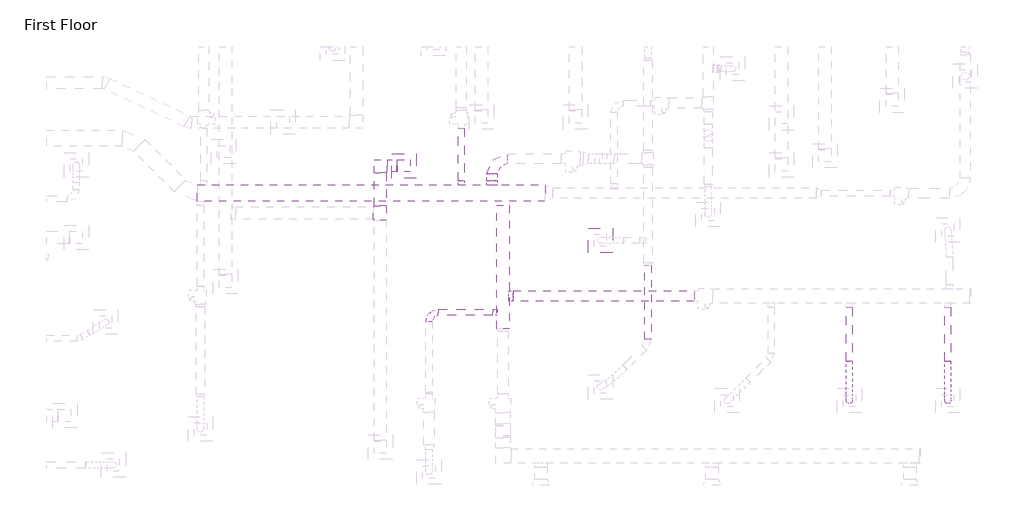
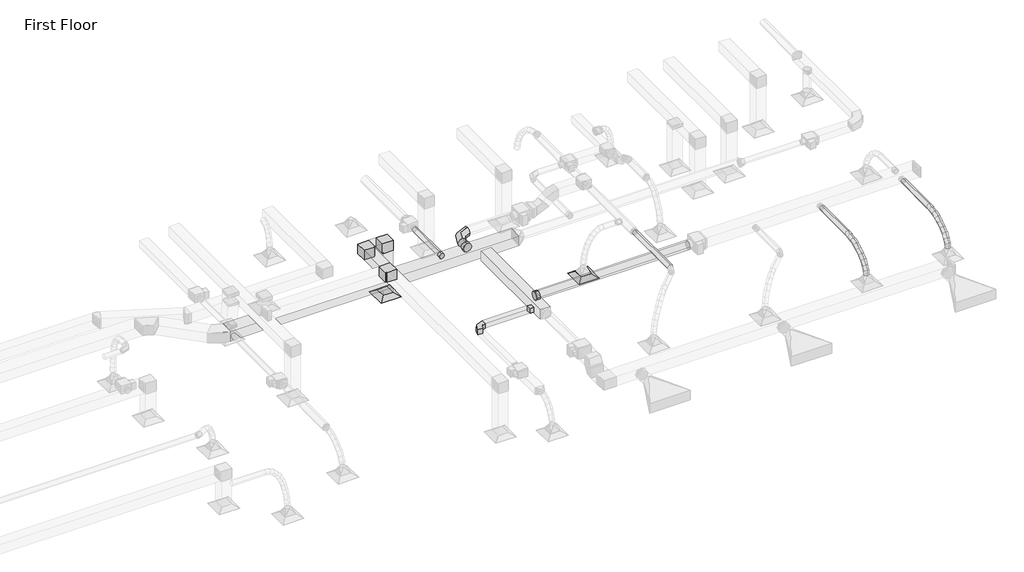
# One storey, part 54 of 61: 14 duct segments, 9 duct fittings, 2 air terminals.
"""IFC4 building model written with IfcOpenShell, lengths in millimetres."""

from ifc_helpers import new_model, si_unit, point, frame, frame_2d, origin, place, context, project, spatial, polyline, circle_curve, ellipse_curve, trimmed, segment, composite_curve, outline, extrude, transform, mapped, element, save
from ifc_brep_helpers import plane_surface, cylinder_surface, advanced_brep
from components import m_exhaust_grill_er_600_x_600_face_300_x_300_connection_ff221211, m_rectangular_elbow_mitered_standard_8eee5933, m_rectangular_elbow_radius_1_5_w_34375731, m_rectangular_takeoff_standard_f8aabef9, m_rectangular_tee_standard_bf2a2b7f, m_round_elbow_1_5_d_4a9a621c, m_round_takeoff_standard_e5a0bf09, m_round_takeoff_standard_8bf94ee8, m_round_takeoff_standard_ce92a222

model = new_model("IFC4")

# Units and contexts
model_context = context("Model", 3, world=origin())
ifc_project = project(units=[si_unit("LENGTHUNIT", "METRE", prefix="MILLI")], contexts=[model_context])

# Site, building, storey
site = spatial("IfcSite", under=ifc_project)
building = spatial("IfcBuilding", under=site)
storey = spatial("IfcBuildingStorey", under=building, Name="First Floor", Elevation=0.0)

# Air terminals
placement = place(None, origin())
m_exhaust_grill_er_600_x_600_face_300_x_300_connection_shape = m_exhaust_grill_er_600_x_600_face_300_x_300_connection_ff221211(model_context)
element("IfcAirTerminal", 1, ObjectType="M_Return Register : RR-600 x 600 Face 300 x 300 Connection", at=placement, inside=storey, context=model_context, shape_type="MappedRepresentation", body=[
    mapped(m_exhaust_grill_er_600_x_600_face_300_x_300_connection_shape, transform((-14253.6262032, 43623.6954017, 2680.0), x_axis=(1.0, 0.0, 0.0), y_axis=(0.0, 1.0, 0.0), z_axis=(0.0, 0.0, 1.0))),
])
element("IfcAirTerminal", 2, ObjectType="M_Supply Diffuser : SD-600 x 600 Face 300 x 300 Connection", at=placement, inside=storey, context=model_context, shape_type="MappedRepresentation", body=[
    mapped(m_exhaust_grill_er_600_x_600_face_300_x_300_connection_shape, transform((-9443.8265855, 41799.3842664, 2680.0), x_axis=(1.0, 0.0, 0.0), y_axis=(0.0, 1.0, 0.0), z_axis=(0.0, 0.0, 1.0))),
])

# Duct fittings
m_rectangular_elbow_mitered_standard_shape = m_rectangular_elbow_mitered_standard_8eee5933(model_context)
element("IfcDuctFitting", 3, ObjectType="M_Rectangular Elbow - Mitered : Standard", at=placement, inside=storey, context=model_context, shape_type="MappedRepresentation", body=[
    mapped(m_rectangular_elbow_mitered_standard_shape, transform((-14253.6262032, 43623.6954017, 4259.5), x_axis=(0.0, 0.0, 1.0), y_axis=(-1.0, 0.0, 0.0), z_axis=(0.0, -1.0, 0.0))),
])
element("IfcDuctFitting", 4, ObjectType="M_Rectangular Elbow - Mitered : Standard", at=placement, inside=storey, context=model_context, shape_type="MappedRepresentation", body=[
    mapped(m_rectangular_elbow_mitered_standard_shape, transform((-14834.8231147, 43623.6954017, 4259.5), x_axis=(-1.0, 0.0, 0.0), y_axis=(0.0, -1.0, 0.0), z_axis=(0.0, 0.0, 1.0))),
])
m_rectangular_elbow_radius_1_5_w_shape = m_rectangular_elbow_radius_1_5_w_34375731(model_context)
element("IfcDuctFitting", 5, ObjectType="M_Rectangular Elbow - Radius : 1.5 W", at=placement, inside=storey, context=model_context, shape_type="MappedRepresentation", body=[
    mapped(m_rectangular_elbow_radius_1_5_w_shape, transform((-13642.7415591, 40033.7748195, 3609.6), x_axis=(-1.0, 0.0, 0.0), y_axis=(0.0, -0.9999999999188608, -1.2738853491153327e-05), z_axis=(0.0, -1.2738853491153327e-05, 0.9999999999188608))),
])
m_rectangular_takeoff_standard_shape = m_rectangular_takeoff_standard_f8aabef9(model_context)
element("IfcDuctFitting", 6, ObjectType="M_Rectangular Takeoff : Standard", at=placement, inside=storey, context=model_context, shape_type="MappedRepresentation", body=[
    mapped(m_rectangular_takeoff_standard_shape, transform((-11977.7462336, 40033.7748195, 3609.6), x_axis=(-1.0, 0.0, 0.0), y_axis=(0.0, 1.0, 0.0), z_axis=(0.0, 0.0, -1.0))),
])
m_rectangular_tee_standard_shape = m_rectangular_tee_standard_bf2a2b7f(model_context)
element("IfcDuctFitting", 7, ObjectType="M_Rectangular Tee : Standard", at=placement, inside=storey, context=model_context, shape_type="MappedRepresentation", body=[
    mapped(m_rectangular_tee_standard_shape, transform((-14834.8231147, 42467.9736837, 4259.5), x_axis=(0.0, -1.0, 0.0), y_axis=(1.0, 0.0, 0.0), z_axis=(0.0, 0.0, 1.0))),
])
m_round_elbow_1_5_d_shape = m_round_elbow_1_5_d_4a9a621c(model_context)
element("IfcDuctFitting", 8, ObjectType="M_Round Elbow : 1.5 D", at=placement, inside=storey, context=model_context, shape_type="MappedRepresentation", body=[
    mapped(m_round_elbow_1_5_d_shape, transform((-12096.2549766, 43800.106062, 3659.6), x_axis=(-1.0, 0.0, 0.0), y_axis=(0.0, -1.0, 0.0), z_axis=(0.0, 0.0, 1.0))),
])
m_round_takeoff_standard_shape = m_round_takeoff_standard_e5a0bf09(model_context)
element("IfcDuctFitting", 9, ObjectType="M_Round Takeoff : Standard", at=placement, inside=storey, context=model_context, shape_type="MappedRepresentation", body=[
    mapped(m_round_takeoff_standard_shape, transform((-11677.7462336, 40433.1004796, 3659.5991991), x_axis=(0.9999999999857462, 0.0, -5.339257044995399e-06), y_axis=(0.0, -1.0, 0.0), z_axis=(-5.339257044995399e-06, 0.0, -0.9999999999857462))),
])
m_round_takeoff_standard_2_shape = m_round_takeoff_standard_8bf94ee8(model_context)
element("IfcDuctFitting", 10, ObjectType="M_Round Takeoff : Standard", at=placement, inside=storey, context=model_context, shape_type="MappedRepresentation", body=[
    mapped(m_round_takeoff_standard_2_shape, transform((-12851.5599417, 43156.1720978, 3659.6031417), x_axis=(0.0, 0.9999999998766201, 1.570858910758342e-05), y_axis=(1.0, 0.0, 0.0), z_axis=(0.0, 1.5708589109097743e-05, -0.9999999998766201))),
])
m_round_takeoff_standard_3_shape = m_round_takeoff_standard_ce92a222(model_context)
element("IfcDuctFitting", 11, ObjectType="M_Round Takeoff : Standard", at=placement, inside=storey, context=model_context, shape_type="MappedRepresentation", body=[
    mapped(m_round_takeoff_standard_3_shape, transform((-12096.2549766, 43156.1720978, 3659.6), x_axis=(0.0, 1.0, 0.0), y_axis=(1.0, 0.0, 0.0), z_axis=(0.0, 0.0, -1.0))),
])

# Duct segments
element("IfcDuctSegment", 12, ObjectType="Flex - Round", at=placement, inside=storey, context=model_context, shape_type="AdvancedBrep", body=[
    advanced_brep(
    [(-3264.4452396, 38832.2504796, 3669.1), (-3339.4452396, 38838.2751836, 3594.342372), (-3414.4452396, 38832.2504796, 3669.1), (-3339.4452396, 38826.2257756, 3743.857628), (-3264.4452396, 38694.3241422, 3657.9845409), (-3339.4452396, 38705.5469799, 3583.6458296), (-3414.4452396, 38694.3241422, 3657.9845409), (-3339.4452396, 38683.1013046, 3732.3232522), (-3264.4452396, 37868.7760483, 2962.6660172), (-3339.4452396, 37794.6539595, 2974.1078685), (-3414.4452396, 37868.7760483, 2962.6660172), (-3339.4452396, 37942.898137, 2951.2241658), (-3264.4452396, 38550.05401, 3625.8351896), (-3339.4452396, 38570.8463398, 3553.6289569), (-3414.4452396, 38550.05401, 3625.8351896), (-3339.4452396, 38529.2616801, 3698.0414223), (-3264.4452396, 38405.4667401, 3574.4474849), (-3339.4452396, 38434.780734, 3505.2699334), (-3414.4452396, 38405.4667401, 3574.4474849), (-3339.4452396, 38376.1527463, 3643.6250364), (-3264.4452396, 38266.5889902, 3505.6169659), (-3339.4452396, 38304.1443278, 3440.523985), (-3414.4452396, 38266.5889902, 3505.6169659), (-3339.4452396, 38229.0336526, 3570.7099468), (-3264.4452396, 38139.4474175, 3421.1391714), (-3339.4452396, 38185.5153362, 3361.7022797), (-3414.4452396, 38139.4474175, 3421.1391714), (-3339.4452396, 38093.3794989, 3480.5760631), (-3264.4452396, 38030.0686796, 3322.8096404), (-3339.4452396, 38085.2150809, 3271.5341423), (-3414.4452396, 38030.0686796, 3322.8096404), (-3339.4452396, 37974.9222783, 3374.0851385), (-3264.4452396, 37944.4794338, 3212.4239117), (-3339.4452396, 38008.9773482, 3173.2091997), (-3414.4452396, 37944.4794338, 3212.4239117), (-3339.4452396, 37879.9815194, 3251.6386237), (-3264.4452396, 37888.7063375, 3091.7775243), (-3339.4452396, 37961.2167919, 3069.8952551), (-3414.4452396, 37888.7063375, 3091.7775243), (-3339.4452396, 37816.1958832, 3113.6597935)],
    [
        (0, 1, circle_curve(frame((-3339.4452396, 38832.2504796, 3669.1), z_axis=(0.0, 0.9967683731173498, 0.08032938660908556), x_axis=(1.0, 0.0, 0.0)), 75.0)),
        (1, 2, circle_curve(frame((-3339.4452396, 38832.2504796, 3669.1), z_axis=(0.0, 0.9967683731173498, 0.08032938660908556), x_axis=(1.0, 0.0, 0.0)), 75.0)),
        (2, 3, circle_curve(frame((-3339.4452396, 38832.2504796, 3669.1), z_axis=(0.0, 0.9967683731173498, 0.08032938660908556), x_axis=(1.0, 0.0, 0.0)), 75.0)),
        (3, 0, circle_curve(frame((-3339.4452396, 38832.2504796, 3669.1), z_axis=(0.0, 0.9967683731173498, 0.08032938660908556), x_axis=(1.0, 0.0, 0.0)), 75.0)),
        (0, 4),
        (4, 5, ellipse_curve(frame((-3339.4452396, 38694.3241422, 3657.9845409), z_axis=(0.0, 0.9887953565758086, 0.14927740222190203), x_axis=(0.0, 0.14927740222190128, -0.9887953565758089)), 75.1810886, 75.0)),
        (5, 1),
        (5, 6, ellipse_curve(frame((-3339.4452396, 38694.3241422, 3657.9845409), z_axis=(0.0, 0.9887953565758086, 0.14927740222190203), x_axis=(0.0, 0.14927740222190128, -0.9887953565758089)), 75.1810886, 75.0)),
        (6, 2),
        (6, 7, ellipse_curve(frame((-3339.4452396, 38694.3241422, 3657.9845409), z_axis=(0.0, 0.9887953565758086, 0.14927740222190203), x_axis=(0.0, 0.14927740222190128, -0.9887953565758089)), 75.1810886, 75.0)),
        (7, 3),
        (7, 4, ellipse_curve(frame((-3339.4452396, 38694.3241422, 3657.9845409), z_axis=(0.0, 0.9887953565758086, 0.14927740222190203), x_axis=(0.0, 0.14927740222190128, -0.9887953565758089)), 75.1810886, 75.0)),
        (8, 9, circle_curve(frame((-3339.4452396, 37868.7760483, 2962.6660172), z_axis=(0.0, -0.15255801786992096, -0.9882945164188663), x_axis=(1.0, 0.0, 0.0)), 75.0)),
        (9, 10, circle_curve(frame((-3339.4452396, 37868.7760483, 2962.6660172), z_axis=(0.0, -0.15255801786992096, -0.9882945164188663), x_axis=(1.0, 0.0, 0.0)), 75.0)),
        (10, 11, circle_curve(frame((-3339.4452396, 37868.7760483, 2962.6660172), z_axis=(0.0, -0.15255801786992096, -0.9882945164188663), x_axis=(1.0, 0.0, 0.0)), 75.0)),
        (11, 8, circle_curve(frame((-3339.4452396, 37868.7760483, 2962.6660172), z_axis=(0.0, -0.15255801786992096, -0.9882945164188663), x_axis=(1.0, 0.0, 0.0)), 75.0)),
        (4, 12),
        (12, 13, ellipse_curve(frame((-3339.4452396, 38550.05401, 3625.8351896), z_axis=(0.0, 0.9609524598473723, 0.27671351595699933), x_axis=(0.0, 0.27671351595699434, -0.9609524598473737)), 75.1402757, 75.0)),
        (13, 5),
        (13, 14, ellipse_curve(frame((-3339.4452396, 38550.05401, 3625.8351896), z_axis=(0.0, 0.9609524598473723, 0.27671351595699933), x_axis=(0.0, 0.27671351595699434, -0.9609524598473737)), 75.1402757, 75.0)),
        (14, 6),
        (14, 15, ellipse_curve(frame((-3339.4452396, 38550.05401, 3625.8351896), z_axis=(0.0, 0.9609524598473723, 0.27671351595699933), x_axis=(0.0, 0.27671351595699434, -0.9609524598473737)), 75.1402757, 75.0)),
        (15, 7),
        (15, 12, ellipse_curve(frame((-3339.4452396, 38550.05401, 3625.8351896), z_axis=(0.0, 0.9609524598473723, 0.27671351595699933), x_axis=(0.0, 0.27671351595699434, -0.9609524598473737)), 75.1402757, 75.0)),
        (12, 16),
        (16, 17, ellipse_curve(frame((-3339.4452396, 38405.4667401, 3574.4474849), z_axis=(0.0, 0.9207446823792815, 0.39016564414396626), x_axis=(0.0, 0.39016564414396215, -0.9207446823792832)), 75.132176, 75.0)),
        (17, 13),
        (17, 18, ellipse_curve(frame((-3339.4452396, 38405.4667401, 3574.4474849), z_axis=(0.0, 0.9207446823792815, 0.39016564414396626), x_axis=(0.0, 0.39016564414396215, -0.9207446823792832)), 75.132176, 75.0)),
        (18, 14),
        (18, 19, ellipse_curve(frame((-3339.4452396, 38405.4667401, 3574.4474849), z_axis=(0.0, 0.9207446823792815, 0.39016564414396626), x_axis=(0.0, 0.39016564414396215, -0.9207446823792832)), 75.132176, 75.0)),
        (19, 15),
        (19, 16, ellipse_curve(frame((-3339.4452396, 38405.4667401, 3574.4474849), z_axis=(0.0, 0.9207446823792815, 0.39016564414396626), x_axis=(0.0, 0.39016564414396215, -0.9207446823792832)), 75.132176, 75.0)),
        (16, 20),
        (20, 21, ellipse_curve(frame((-3339.4452396, 38266.5889902, 3505.6169659), z_axis=(0.0, 0.8661758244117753, 0.4997393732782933), x_axis=(0.0, 0.4997393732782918, -0.8661758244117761)), 75.1498473, 75.0)),
        (21, 17),
        (21, 22, ellipse_curve(frame((-3339.4452396, 38266.5889902, 3505.6169659), z_axis=(0.0, 0.8661758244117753, 0.4997393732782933), x_axis=(0.0, 0.4997393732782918, -0.8661758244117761)), 75.1498473, 75.0)),
        (22, 18),
        (22, 23, ellipse_curve(frame((-3339.4452396, 38266.5889902, 3505.6169659), z_axis=(0.0, 0.8661758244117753, 0.4997393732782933), x_axis=(0.0, 0.4997393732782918, -0.8661758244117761)), 75.1498473, 75.0)),
        (23, 19),
        (23, 20, ellipse_curve(frame((-3339.4452396, 38266.5889902, 3505.6169659), z_axis=(0.0, 0.8661758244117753, 0.4997393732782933), x_axis=(0.0, 0.4997393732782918, -0.8661758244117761)), 75.1498473, 75.0)),
        (20, 24),
        (24, 25, ellipse_curve(frame((-3339.4452396, 38139.4474175, 3421.1391714), z_axis=(0.0, 0.7903871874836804, 0.612607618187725), x_axis=(0.0, 0.6126076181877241, -0.7903871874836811)), 75.1997156, 75.0)),
        (25, 21),
        (25, 26, ellipse_curve(frame((-3339.4452396, 38139.4474175, 3421.1391714), z_axis=(0.0, 0.7903871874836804, 0.612607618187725), x_axis=(0.0, 0.6126076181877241, -0.7903871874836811)), 75.1997156, 75.0)),
        (26, 22),
        (26, 27, ellipse_curve(frame((-3339.4452396, 38139.4474175, 3421.1391714), z_axis=(0.0, 0.7903871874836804, 0.612607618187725), x_axis=(0.0, 0.6126076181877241, -0.7903871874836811)), 75.1997156, 75.0)),
        (27, 23),
        (27, 24, ellipse_curve(frame((-3339.4452396, 38139.4474175, 3421.1391714), z_axis=(0.0, 0.7903871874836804, 0.612607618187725), x_axis=(0.0, 0.6126076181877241, -0.7903871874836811)), 75.1997156, 75.0)),
        (24, 28),
        (28, 29, ellipse_curve(frame((-3339.4452396, 38030.0686796, 3322.8096404), z_axis=(0.0, 0.6809367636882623, 0.7323422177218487), x_axis=(0.0, 0.7323422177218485, -0.6809367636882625)), 75.3014095, 75.0)),
        (29, 25),
        (29, 30, ellipse_curve(frame((-3339.4452396, 38030.0686796, 3322.8096404), z_axis=(0.0, 0.6809367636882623, 0.7323422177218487), x_axis=(0.0, 0.7323422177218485, -0.6809367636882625)), 75.3014095, 75.0)),
        (30, 26),
        (30, 31, ellipse_curve(frame((-3339.4452396, 38030.0686796, 3322.8096404), z_axis=(0.0, 0.6809367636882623, 0.7323422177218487), x_axis=(0.0, 0.7323422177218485, -0.6809367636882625)), 75.3014095, 75.0)),
        (31, 27),
        (31, 28, ellipse_curve(frame((-3339.4452396, 38030.0686796, 3322.8096404), z_axis=(0.0, 0.6809367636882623, 0.7323422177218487), x_axis=(0.0, 0.7323422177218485, -0.6809367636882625)), 75.3014095, 75.0)),
        (28, 32),
        (32, 33, ellipse_curve(frame((-3339.4452396, 37944.4794338, 3212.4239117), z_axis=(0.0, 0.5195129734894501, 0.8544625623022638), x_axis=(0.0, 0.8544625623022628, -0.5195129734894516)), 75.4836048, 75.0)),
        (33, 29),
        (33, 34, ellipse_curve(frame((-3339.4452396, 37944.4794338, 3212.4239117), z_axis=(0.0, 0.5195129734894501, 0.8544625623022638), x_axis=(0.0, 0.8544625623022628, -0.5195129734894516)), 75.4836048, 75.0)),
        (34, 30),
        (34, 35, ellipse_curve(frame((-3339.4452396, 37944.4794338, 3212.4239117), z_axis=(0.0, 0.5195129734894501, 0.8544625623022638), x_axis=(0.0, 0.8544625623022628, -0.5195129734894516)), 75.4836048, 75.0)),
        (35, 31),
        (35, 32, ellipse_curve(frame((-3339.4452396, 37944.4794338, 3212.4239117), z_axis=(0.0, 0.5195129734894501, 0.8544625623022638), x_axis=(0.0, 0.8544625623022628, -0.5195129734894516)), 75.4836048, 75.0)),
        (32, 36),
        (36, 37, ellipse_curve(frame((-3339.4452396, 37888.7063375, 3091.7775243), z_axis=(0.0, 0.28891166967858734, 0.9573557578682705), x_axis=(0.0, 0.9573557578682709, -0.28891166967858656)), 75.7403439, 75.0)),
        (37, 33),
        (37, 38, ellipse_curve(frame((-3339.4452396, 37888.7063375, 3091.7775243), z_axis=(0.0, 0.28891166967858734, 0.9573557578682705), x_axis=(0.0, 0.9573557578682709, -0.28891166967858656)), 75.7403439, 75.0)),
        (38, 34),
        (38, 39, ellipse_curve(frame((-3339.4452396, 37888.7063375, 3091.7775243), z_axis=(0.0, 0.28891166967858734, 0.9573557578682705), x_axis=(0.0, 0.9573557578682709, -0.28891166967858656)), 75.7403439, 75.0)),
        (39, 35),
        (39, 36, ellipse_curve(frame((-3339.4452396, 37888.7063375, 3091.7775243), z_axis=(0.0, 0.28891166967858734, 0.9573557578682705), x_axis=(0.0, 0.9573557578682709, -0.28891166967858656)), 75.7403439, 75.0)),
        (36, 8),
        (11, 37),
        (10, 38),
        (9, 39),
    ],
    [
        plane_surface(frame((-3339.4452396, 38838.2751836, 3594.342372), z_axis=(0.0, 0.9967683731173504, 0.08032938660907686), x_axis=(1.0, 0.0, 0.0))),
        cylinder_surface(frame((-3339.4452396, 38832.2504796, 3669.1), z_axis=(0.0, 0.9967683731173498, 0.08032938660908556), x_axis=(1.0, 0.0, 0.0)), 75.0),
        plane_surface(frame((-3339.4452396, 37942.898137, 2951.2241658), z_axis=(0.0, -0.1525580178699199, -0.9882945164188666), x_axis=(1.0, 0.0, 0.0))),
        cylinder_surface(frame((-3339.4452396, 38694.3241422, 3657.9845409), z_axis=(0.0, 0.9760589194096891, 0.2175062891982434), x_axis=(1.0, 0.0, 0.0)), 75.0),
        cylinder_surface(frame((-3339.4452396, 38550.05401, 3625.8351896), z_axis=(0.0, 0.9422580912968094, 0.3348875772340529), x_axis=(1.0, 0.0, 0.0)), 75.0),
        cylinder_surface(frame((-3339.4452396, 38405.4667401, 3574.4474849), z_axis=(0.0, 0.8959916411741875, 0.44407091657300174), x_axis=(1.0, 0.0, 0.0)), 75.0),
        cylinder_surface(frame((-3339.4452396, 38266.5889902, 3505.6169659), z_axis=(0.0, 0.8329057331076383, 0.5534148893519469), x_axis=(1.0, 0.0, 0.0)), 75.0),
        cylinder_surface(frame((-3339.4452396, 38139.4474175, 3421.1391714), z_axis=(0.0, 0.7436704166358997, 0.6685464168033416), x_axis=(1.0, 0.0, 0.0)), 75.0),
        cylinder_surface(frame((-3339.4452396, 38030.0686796, 3322.8096404), z_axis=(0.0, 0.6127519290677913, 0.7902753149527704), x_axis=(1.0, 0.0, 0.0)), 75.0),
        cylinder_surface(frame((-3339.4452396, 37944.4794338, 3212.4239117), z_axis=(0.0, 0.41961723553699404, 0.9077011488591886), x_axis=(1.0, 0.0, 0.0)), 75.0),
        cylinder_surface(frame((-3339.4452396, 37888.7063375, 3091.7775243), z_axis=(0.0, 0.15255801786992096, 0.9882945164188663), x_axis=(1.0, 0.0, 0.0)), 75.0),
    ],
    [
        (0, [[1, 2, 3, 4]]),
        (1, [[-1, 5, 6, 7]]),
        (1, [[-2, -7, 8, 9]]),
        (1, [[-3, -9, 10, 11]]),
        (1, [[-4, -11, 12, -5]]),
        (2, [[13, 14, 15, 16]]),
        (3, [[-6, 17, 18, 19]]),
        (3, [[-8, -19, 20, 21]]),
        (3, [[-10, -21, 22, 23]]),
        (3, [[-12, -23, 24, -17]]),
        (4, [[-18, 25, 26, 27]]),
        (4, [[-20, -27, 28, 29]]),
        (4, [[-22, -29, 30, 31]]),
        (4, [[-24, -31, 32, -25]]),
        (5, [[-26, 33, 34, 35]]),
        (5, [[-28, -35, 36, 37]]),
        (5, [[-30, -37, 38, 39]]),
        (5, [[-32, -39, 40, -33]]),
        (6, [[-34, 41, 42, 43]]),
        (6, [[-36, -43, 44, 45]]),
        (6, [[-38, -45, 46, 47]]),
        (6, [[-40, -47, 48, -41]]),
        (7, [[-42, 49, 50, 51]]),
        (7, [[-44, -51, 52, 53]]),
        (7, [[-46, -53, 54, 55]]),
        (7, [[-48, -55, 56, -49]]),
        (8, [[-50, 57, 58, 59]]),
        (8, [[-52, -59, 60, 61]]),
        (8, [[-54, -61, 62, 63]]),
        (8, [[-56, -63, 64, -57]]),
        (9, [[-58, 65, 66, 67]]),
        (9, [[-60, -67, 68, 69]]),
        (9, [[-62, -69, 70, 71]]),
        (9, [[-64, -71, 72, -65]]),
        (10, [[-66, 73, -16, 74]]),
        (10, [[-68, -74, -15, 75]]),
        (10, [[-70, -75, -14, 76]]),
        (10, [[-72, -76, -13, -73]]),
    ],
),
])
element("IfcDuctSegment", 13, ObjectType="Flex - Round", at=placement, inside=storey, context=model_context, shape_type="AdvancedBrep", body=[
    advanced_brep(
    [(-853.6121284, 38832.2504796, 3669.1), (-928.6121284, 38838.2751836, 3594.342372), (-1003.6121284, 38832.2504796, 3669.1), (-928.6121284, 38826.2257756, 3743.857628), (-853.6121284, 38694.3241422, 3657.9845409), (-928.6121284, 38705.5469799, 3583.6458296), (-1003.6121284, 38694.3241422, 3657.9845409), (-928.6121284, 38683.1013046, 3732.3232522), (-853.6121284, 37868.7760483, 2962.6660172), (-928.6121284, 37794.6539595, 2974.1078685), (-1003.6121284, 37868.7760483, 2962.6660172), (-928.6121284, 37942.898137, 2951.2241658), (-853.6121284, 38550.05401, 3625.8351896), (-928.6121284, 38570.8463398, 3553.6289569), (-1003.6121284, 38550.05401, 3625.8351896), (-928.6121284, 38529.2616801, 3698.0414223), (-853.6121284, 38405.4667401, 3574.4474849), (-928.6121284, 38434.780734, 3505.2699334), (-1003.6121284, 38405.4667401, 3574.4474849), (-928.6121284, 38376.1527463, 3643.6250364), (-853.6121284, 38266.5889902, 3505.6169659), (-928.6121284, 38304.1443278, 3440.523985), (-1003.6121284, 38266.5889902, 3505.6169659), (-928.6121284, 38229.0336526, 3570.7099468), (-853.6121284, 38139.4474175, 3421.1391714), (-928.6121284, 38185.5153362, 3361.7022797), (-1003.6121284, 38139.4474175, 3421.1391714), (-928.6121284, 38093.3794989, 3480.5760631), (-853.6121284, 38030.0686796, 3322.8096404), (-928.6121284, 38085.2150809, 3271.5341423), (-1003.6121284, 38030.0686796, 3322.8096404), (-928.6121284, 37974.9222783, 3374.0851385), (-853.6121284, 37944.4794338, 3212.4239117), (-928.6121284, 38008.9773482, 3173.2091997), (-1003.6121284, 37944.4794338, 3212.4239117), (-928.6121284, 37879.9815194, 3251.6386237), (-853.6121284, 37888.7063375, 3091.7775243), (-928.6121284, 37961.2167919, 3069.8952551), (-1003.6121284, 37888.7063375, 3091.7775243), (-928.6121284, 37816.1958832, 3113.6597935)],
    [
        (0, 1, circle_curve(frame((-928.6121284, 38832.2504796, 3669.1), z_axis=(0.0, 0.9967683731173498, 0.08032938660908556), x_axis=(1.0, 0.0, 0.0)), 75.0)),
        (1, 2, circle_curve(frame((-928.6121284, 38832.2504796, 3669.1), z_axis=(0.0, 0.9967683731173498, 0.08032938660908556), x_axis=(1.0, 0.0, 0.0)), 75.0)),
        (2, 3, circle_curve(frame((-928.6121284, 38832.2504796, 3669.1), z_axis=(0.0, 0.9967683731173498, 0.08032938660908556), x_axis=(1.0, 0.0, 0.0)), 75.0)),
        (3, 0, circle_curve(frame((-928.6121284, 38832.2504796, 3669.1), z_axis=(0.0, 0.9967683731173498, 0.08032938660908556), x_axis=(1.0, 0.0, 0.0)), 75.0)),
        (0, 4),
        (4, 5, ellipse_curve(frame((-928.6121284, 38694.3241422, 3657.9845409), z_axis=(0.0, 0.9887953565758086, 0.14927740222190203), x_axis=(0.0, 0.14927740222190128, -0.9887953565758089)), 75.1810886, 75.0)),
        (5, 1),
        (5, 6, ellipse_curve(frame((-928.6121284, 38694.3241422, 3657.9845409), z_axis=(0.0, 0.9887953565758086, 0.14927740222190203), x_axis=(0.0, 0.14927740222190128, -0.9887953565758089)), 75.1810886, 75.0)),
        (6, 2),
        (6, 7, ellipse_curve(frame((-928.6121284, 38694.3241422, 3657.9845409), z_axis=(0.0, 0.9887953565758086, 0.14927740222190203), x_axis=(0.0, 0.14927740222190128, -0.9887953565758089)), 75.1810886, 75.0)),
        (7, 3),
        (7, 4, ellipse_curve(frame((-928.6121284, 38694.3241422, 3657.9845409), z_axis=(0.0, 0.9887953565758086, 0.14927740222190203), x_axis=(0.0, 0.14927740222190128, -0.9887953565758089)), 75.1810886, 75.0)),
        (8, 9, circle_curve(frame((-928.6121284, 37868.7760483, 2962.6660172), z_axis=(0.0, -0.15255801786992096, -0.9882945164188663), x_axis=(1.0, 0.0, 0.0)), 75.0)),
        (9, 10, circle_curve(frame((-928.6121284, 37868.7760483, 2962.6660172), z_axis=(0.0, -0.15255801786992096, -0.9882945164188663), x_axis=(1.0, 0.0, 0.0)), 75.0)),
        (10, 11, circle_curve(frame((-928.6121284, 37868.7760483, 2962.6660172), z_axis=(0.0, -0.15255801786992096, -0.9882945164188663), x_axis=(1.0, 0.0, 0.0)), 75.0)),
        (11, 8, circle_curve(frame((-928.6121284, 37868.7760483, 2962.6660172), z_axis=(0.0, -0.15255801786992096, -0.9882945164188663), x_axis=(1.0, 0.0, 0.0)), 75.0)),
        (4, 12),
        (12, 13, ellipse_curve(frame((-928.6121284, 38550.05401, 3625.8351896), z_axis=(0.0, 0.9609524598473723, 0.27671351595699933), x_axis=(0.0, 0.27671351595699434, -0.9609524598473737)), 75.1402757, 75.0)),
        (13, 5),
        (13, 14, ellipse_curve(frame((-928.6121284, 38550.05401, 3625.8351896), z_axis=(0.0, 0.9609524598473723, 0.27671351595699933), x_axis=(0.0, 0.27671351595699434, -0.9609524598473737)), 75.1402757, 75.0)),
        (14, 6),
        (14, 15, ellipse_curve(frame((-928.6121284, 38550.05401, 3625.8351896), z_axis=(0.0, 0.9609524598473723, 0.27671351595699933), x_axis=(0.0, 0.27671351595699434, -0.9609524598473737)), 75.1402757, 75.0)),
        (15, 7),
        (15, 12, ellipse_curve(frame((-928.6121284, 38550.05401, 3625.8351896), z_axis=(0.0, 0.9609524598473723, 0.27671351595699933), x_axis=(0.0, 0.27671351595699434, -0.9609524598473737)), 75.1402757, 75.0)),
        (12, 16),
        (16, 17, ellipse_curve(frame((-928.6121284, 38405.4667401, 3574.4474849), z_axis=(0.0, 0.9207446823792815, 0.39016564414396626), x_axis=(0.0, 0.39016564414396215, -0.9207446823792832)), 75.132176, 75.0)),
        (17, 13),
        (17, 18, ellipse_curve(frame((-928.6121284, 38405.4667401, 3574.4474849), z_axis=(0.0, 0.9207446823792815, 0.39016564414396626), x_axis=(0.0, 0.39016564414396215, -0.9207446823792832)), 75.132176, 75.0)),
        (18, 14),
        (18, 19, ellipse_curve(frame((-928.6121284, 38405.4667401, 3574.4474849), z_axis=(0.0, 0.9207446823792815, 0.39016564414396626), x_axis=(0.0, 0.39016564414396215, -0.9207446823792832)), 75.132176, 75.0)),
        (19, 15),
        (19, 16, ellipse_curve(frame((-928.6121284, 38405.4667401, 3574.4474849), z_axis=(0.0, 0.9207446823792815, 0.39016564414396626), x_axis=(0.0, 0.39016564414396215, -0.9207446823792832)), 75.132176, 75.0)),
        (16, 20),
        (20, 21, ellipse_curve(frame((-928.6121284, 38266.5889902, 3505.6169659), z_axis=(0.0, 0.8661758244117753, 0.4997393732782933), x_axis=(0.0, 0.4997393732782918, -0.8661758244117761)), 75.1498473, 75.0)),
        (21, 17),
        (21, 22, ellipse_curve(frame((-928.6121284, 38266.5889902, 3505.6169659), z_axis=(0.0, 0.8661758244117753, 0.4997393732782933), x_axis=(0.0, 0.4997393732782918, -0.8661758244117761)), 75.1498473, 75.0)),
        (22, 18),
        (22, 23, ellipse_curve(frame((-928.6121284, 38266.5889902, 3505.6169659), z_axis=(0.0, 0.8661758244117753, 0.4997393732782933), x_axis=(0.0, 0.4997393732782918, -0.8661758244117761)), 75.1498473, 75.0)),
        (23, 19),
        (23, 20, ellipse_curve(frame((-928.6121284, 38266.5889902, 3505.6169659), z_axis=(0.0, 0.8661758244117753, 0.4997393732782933), x_axis=(0.0, 0.4997393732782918, -0.8661758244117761)), 75.1498473, 75.0)),
        (20, 24),
        (24, 25, ellipse_curve(frame((-928.6121284, 38139.4474175, 3421.1391714), z_axis=(0.0, 0.7903871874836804, 0.612607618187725), x_axis=(0.0, 0.6126076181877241, -0.7903871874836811)), 75.1997156, 75.0)),
        (25, 21),
        (25, 26, ellipse_curve(frame((-928.6121284, 38139.4474175, 3421.1391714), z_axis=(0.0, 0.7903871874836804, 0.612607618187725), x_axis=(0.0, 0.6126076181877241, -0.7903871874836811)), 75.1997156, 75.0)),
        (26, 22),
        (26, 27, ellipse_curve(frame((-928.6121284, 38139.4474175, 3421.1391714), z_axis=(0.0, 0.7903871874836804, 0.612607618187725), x_axis=(0.0, 0.6126076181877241, -0.7903871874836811)), 75.1997156, 75.0)),
        (27, 23),
        (27, 24, ellipse_curve(frame((-928.6121284, 38139.4474175, 3421.1391714), z_axis=(0.0, 0.7903871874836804, 0.612607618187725), x_axis=(0.0, 0.6126076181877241, -0.7903871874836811)), 75.1997156, 75.0)),
        (24, 28),
        (28, 29, ellipse_curve(frame((-928.6121284, 38030.0686796, 3322.8096404), z_axis=(0.0, 0.6809367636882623, 0.7323422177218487), x_axis=(0.0, 0.7323422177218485, -0.6809367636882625)), 75.3014095, 75.0)),
        (29, 25),
        (29, 30, ellipse_curve(frame((-928.6121284, 38030.0686796, 3322.8096404), z_axis=(0.0, 0.6809367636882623, 0.7323422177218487), x_axis=(0.0, 0.7323422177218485, -0.6809367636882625)), 75.3014095, 75.0)),
        (30, 26),
        (30, 31, ellipse_curve(frame((-928.6121284, 38030.0686796, 3322.8096404), z_axis=(0.0, 0.6809367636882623, 0.7323422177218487), x_axis=(0.0, 0.7323422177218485, -0.6809367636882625)), 75.3014095, 75.0)),
        (31, 27),
        (31, 28, ellipse_curve(frame((-928.6121284, 38030.0686796, 3322.8096404), z_axis=(0.0, 0.6809367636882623, 0.7323422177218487), x_axis=(0.0, 0.7323422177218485, -0.6809367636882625)), 75.3014095, 75.0)),
        (28, 32),
        (32, 33, ellipse_curve(frame((-928.6121284, 37944.4794338, 3212.4239117), z_axis=(0.0, 0.5195129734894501, 0.8544625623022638), x_axis=(0.0, 0.8544625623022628, -0.5195129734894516)), 75.4836048, 75.0)),
        (33, 29),
        (33, 34, ellipse_curve(frame((-928.6121284, 37944.4794338, 3212.4239117), z_axis=(0.0, 0.5195129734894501, 0.8544625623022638), x_axis=(0.0, 0.8544625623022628, -0.5195129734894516)), 75.4836048, 75.0)),
        (34, 30),
        (34, 35, ellipse_curve(frame((-928.6121284, 37944.4794338, 3212.4239117), z_axis=(0.0, 0.5195129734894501, 0.8544625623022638), x_axis=(0.0, 0.8544625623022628, -0.5195129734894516)), 75.4836048, 75.0)),
        (35, 31),
        (35, 32, ellipse_curve(frame((-928.6121284, 37944.4794338, 3212.4239117), z_axis=(0.0, 0.5195129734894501, 0.8544625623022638), x_axis=(0.0, 0.8544625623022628, -0.5195129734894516)), 75.4836048, 75.0)),
        (32, 36),
        (36, 37, ellipse_curve(frame((-928.6121284, 37888.7063375, 3091.7775243), z_axis=(0.0, 0.28891166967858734, 0.9573557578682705), x_axis=(0.0, 0.9573557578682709, -0.28891166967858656)), 75.7403439, 75.0)),
        (37, 33),
        (37, 38, ellipse_curve(frame((-928.6121284, 37888.7063375, 3091.7775243), z_axis=(0.0, 0.28891166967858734, 0.9573557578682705), x_axis=(0.0, 0.9573557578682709, -0.28891166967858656)), 75.7403439, 75.0)),
        (38, 34),
        (38, 39, ellipse_curve(frame((-928.6121284, 37888.7063375, 3091.7775243), z_axis=(0.0, 0.28891166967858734, 0.9573557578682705), x_axis=(0.0, 0.9573557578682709, -0.28891166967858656)), 75.7403439, 75.0)),
        (39, 35),
        (39, 36, ellipse_curve(frame((-928.6121284, 37888.7063375, 3091.7775243), z_axis=(0.0, 0.28891166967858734, 0.9573557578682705), x_axis=(0.0, 0.9573557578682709, -0.28891166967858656)), 75.7403439, 75.0)),
        (36, 8),
        (11, 37),
        (10, 38),
        (9, 39),
    ],
    [
        plane_surface(frame((-928.6121284, 38838.2751836, 3594.342372), z_axis=(0.0, 0.9967683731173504, 0.08032938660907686), x_axis=(1.0, 0.0, 0.0))),
        cylinder_surface(frame((-928.6121284, 38832.2504796, 3669.1), z_axis=(0.0, 0.9967683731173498, 0.08032938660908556), x_axis=(1.0, 0.0, 0.0)), 75.0),
        plane_surface(frame((-928.6121284, 37942.898137, 2951.2241658), z_axis=(0.0, -0.15255801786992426, -0.9882945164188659), x_axis=(1.0, 0.0, 0.0))),
        cylinder_surface(frame((-928.6121284, 38694.3241422, 3657.9845409), z_axis=(0.0, 0.9760589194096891, 0.2175062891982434), x_axis=(1.0, 0.0, 0.0)), 75.0),
        cylinder_surface(frame((-928.6121284, 38550.05401, 3625.8351896), z_axis=(0.0, 0.9422580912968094, 0.3348875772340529), x_axis=(1.0, 0.0, 0.0)), 75.0),
        cylinder_surface(frame((-928.6121284, 38405.4667401, 3574.4474849), z_axis=(0.0, 0.8959916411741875, 0.44407091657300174), x_axis=(1.0, 0.0, 0.0)), 75.0),
        cylinder_surface(frame((-928.6121284, 38266.5889902, 3505.6169659), z_axis=(0.0, 0.8329057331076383, 0.5534148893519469), x_axis=(1.0, 0.0, 0.0)), 75.0),
        cylinder_surface(frame((-928.6121284, 38139.4474175, 3421.1391714), z_axis=(0.0, 0.7436704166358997, 0.6685464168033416), x_axis=(1.0, 0.0, 0.0)), 75.0),
        cylinder_surface(frame((-928.6121284, 38030.0686796, 3322.8096404), z_axis=(0.0, 0.6127519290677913, 0.7902753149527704), x_axis=(1.0, 0.0, 0.0)), 75.0),
        cylinder_surface(frame((-928.6121284, 37944.4794338, 3212.4239117), z_axis=(0.0, 0.41961723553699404, 0.9077011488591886), x_axis=(1.0, 0.0, 0.0)), 75.0),
        cylinder_surface(frame((-928.6121284, 37888.7063375, 3091.7775243), z_axis=(0.0, 0.15255801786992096, 0.9882945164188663), x_axis=(1.0, 0.0, 0.0)), 75.0),
    ],
    [
        (0, [[1, 2, 3, 4]]),
        (1, [[-1, 5, 6, 7]]),
        (1, [[-2, -7, 8, 9]]),
        (1, [[-3, -9, 10, 11]]),
        (1, [[-4, -11, 12, -5]]),
        (2, [[13, 14, 15, 16]]),
        (3, [[-6, 17, 18, 19]]),
        (3, [[-8, -19, 20, 21]]),
        (3, [[-10, -21, 22, 23]]),
        (3, [[-12, -23, 24, -17]]),
        (4, [[-18, 25, 26, 27]]),
        (4, [[-20, -27, 28, 29]]),
        (4, [[-22, -29, 30, 31]]),
        (4, [[-24, -31, 32, -25]]),
        (5, [[-26, 33, 34, 35]]),
        (5, [[-28, -35, 36, 37]]),
        (5, [[-30, -37, 38, 39]]),
        (5, [[-32, -39, 40, -33]]),
        (6, [[-34, 41, 42, 43]]),
        (6, [[-36, -43, 44, 45]]),
        (6, [[-38, -45, 46, 47]]),
        (6, [[-40, -47, 48, -41]]),
        (7, [[-42, 49, 50, 51]]),
        (7, [[-44, -51, 52, 53]]),
        (7, [[-46, -53, 54, 55]]),
        (7, [[-48, -55, 56, -49]]),
        (8, [[-50, 57, 58, 59]]),
        (8, [[-52, -59, 60, 61]]),
        (8, [[-54, -61, 62, 63]]),
        (8, [[-56, -63, 64, -57]]),
        (9, [[-58, 65, 66, 67]]),
        (9, [[-60, -67, 68, 69]]),
        (9, [[-62, -69, 70, 71]]),
        (9, [[-64, -71, 72, -65]]),
        (10, [[-66, 73, -16, 74]]),
        (10, [[-68, -74, -15, 75]]),
        (10, [[-70, -75, -14, 76]]),
        (10, [[-72, -76, -13, -73]]),
    ],
),
])
element("IfcDuctSegment", 14, ObjectType="Mitered Elbows / Taps", at=placement, inside=storey, context=model_context, shape_type="SweptSolid", body=[
    extrude(outline(polyline([(-14403.6262032, 43473.6954017), (-14403.6262032, 43773.6954017), (-14103.6262032, 43773.6954017), (-14103.6262032, 43473.6954017), (-14403.6262032, 43473.6954017)])), frame((0.0, 0.0, 2781.6), z_axis=(0.0, 0.0, 1.0), x_axis=(1.0, 0.0, 0.0)), (0.0, 0.0, 1.0), 1302.9),
])
element("IfcDuctSegment", 15, ObjectType="Mitered Elbows / Taps", at=placement, inside=storey, context=model_context, shape_type="SweptSolid", body=[
    extrude(outline(polyline([(-14684.8231147, 42642.9736837), (-14984.8231147, 42642.9736837), (-14984.8231147, 43448.6954017), (-14684.8231147, 43448.6954017), (-14684.8231147, 42642.9736837)])), frame((0.0, 0.0, 4109.5), z_axis=(0.0, 0.0, 1.0), x_axis=(1.0, 0.0, 0.0)), (0.0, 0.0, 1.0), 300.0),
])
element("IfcDuctSegment", 16, ObjectType="Mitered Elbows / Taps", at=placement, inside=storey, context=model_context, shape_type="SweptSolid", body=[
    extrude(outline(polyline([(-14428.6262032, 43773.6954017), (-14428.6262032, 43473.6954017), (-14659.8231147, 43473.6954017), (-14659.8231147, 43773.6954017), (-14428.6262032, 43773.6954017)])), frame((0.0, 0.0, 4109.5), z_axis=(0.0, 0.0, 1.0), x_axis=(1.0, 0.0, 0.0)), (0.0, 0.0, 1.0), 300.0),
])
element("IfcDuctSegment", 17, ObjectType="Radius Elbows / Taps", at=placement, inside=storey, context=model_context, shape_type="SweptSolid", body=[
    extrude(outline(polyline([(-12077.7462336, 40108.7748195), (-12077.7462336, 39958.7748195), (-13417.7415591, 39958.7748195), (-13417.7415591, 40108.7748195), (-12077.7462336, 40108.7748195)])), frame((0.0, 0.0, 3534.6), z_axis=(0.0, 0.0, 1.0), x_axis=(1.0, 0.0, 0.0)), (0.0, 0.0, 1.0), 150.0),
])
element("IfcDuctSegment", 18, ObjectType="Radius Elbows / Taps", at=placement, inside=storey, context=model_context, shape_type="SweptSolid", body=[
    extrude(outline(polyline([(-10789.5481821, 43156.1720978), (-10789.5481821, 42756.1720978), (-19322.0860618, 42756.1720978), (-19322.0860618, 43156.1720978), (-10789.5481821, 43156.1720978)])), frame((0.0, 0.0, 3509.6), z_axis=(0.0, 0.0, 1.0), x_axis=(1.0, 0.0, 0.0)), (0.0, 0.0, 1.0), 300.0),
])
element("IfcDuctSegment", 19, ObjectType="Radius Elbows / Taps", at=placement, inside=storey, context=model_context, shape_type="SweptSolid", body=[
    extrude(outline(polyline([(0.0, -300.0), (0.0, 0.0), (3022.3950191, 0.0), (3022.3950191, -300.0), (0.0, -300.0)])), frame((-11977.7462336, 39633.777079, 3509.6000695), z_axis=(0.0, -1.5058885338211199e-05, 0.9999999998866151), x_axis=(0.0, 0.9999999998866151, 1.5058885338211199e-05)), (0.0, 0.0, 1.0), 300.0),
])
element("IfcDuctSegment", 20, ObjectType="Taps", at=placement, inside=storey, context=model_context, shape_type="SweptSolid", body=[
    extrude(outline(composite_curve([segment(trimmed(circle_curve(frame_2d((3669.1, -928.6121284)), 75.0), [point((3669.1, -1003.6121284))], [point((3594.1, -928.6121284))], False, "CARTESIAN"), True, "CONTINUOUS"), segment(trimmed(circle_curve(frame_2d((3669.1, -928.6121284)), 75.0), [point((3594.1, -928.6121284))], [point((3669.1, -853.6121284))], False, "CARTESIAN"), True, "CONTINUOUS"), segment(trimmed(circle_curve(frame_2d((3669.1, -928.6121284)), 75.0), [point((3669.1, -853.6121284))], [point((3744.1, -928.6121284))], False, "CARTESIAN"), True, "CONTINUOUS"), segment(trimmed(circle_curve(frame_2d((3669.1, -928.6121284)), 75.0), [point((3744.1, -928.6121284))], [point((3669.1, -1003.6121284))], False, "CARTESIAN"), True, "CONTINUOUS")], self_intersect=False)), frame((0.0, 38832.2504796, 0.0), z_axis=(0.0, 1.0, 0.0), x_axis=(0.0, 0.0, 1.0)), (0.0, 0.0, 1.0), 1325.0),
])
element("IfcDuctSegment", 21, ObjectType="Taps", at=placement, inside=storey, context=model_context, shape_type="SweptSolid", body=[
    extrude(outline(composite_curve([segment(trimmed(circle_curve(frame_2d((3669.1, -3339.4452396)), 75.0), [point((3669.1, -3414.4452396))], [point((3594.1, -3339.4452396))], False, "CARTESIAN"), True, "CONTINUOUS"), segment(trimmed(circle_curve(frame_2d((3669.1, -3339.4452396)), 75.0), [point((3594.1, -3339.4452396))], [point((3669.1, -3264.4452396))], False, "CARTESIAN"), True, "CONTINUOUS"), segment(trimmed(circle_curve(frame_2d((3669.1, -3339.4452396)), 75.0), [point((3669.1, -3264.4452396))], [point((3744.1, -3339.4452396))], False, "CARTESIAN"), True, "CONTINUOUS"), segment(trimmed(circle_curve(frame_2d((3669.1, -3339.4452396)), 75.0), [point((3744.1, -3339.4452396))], [point((3669.1, -3414.4452396))], False, "CARTESIAN"), True, "CONTINUOUS")], self_intersect=False)), frame((0.0, 38832.2504796, 0.0), z_axis=(0.0, 1.0, 0.0), x_axis=(0.0, 0.0, 1.0)), (0.0, 0.0, 1.0), 1325.0),
])
element("IfcDuctSegment", 22, ObjectType="Taps", at=placement, inside=storey, context=model_context, shape_type="SweptSolid", body=[
    extrude(outline(composite_curve([segment(trimmed(circle_curve(frame_2d((0.0, -125.0)), 125.0), [point((-125.0, -125.0))], [point((0.0, 0.0))], False, "CARTESIAN"), True, "CONTINUOUS"), segment(trimmed(circle_curve(frame_2d((0.0, -125.0)), 125.0), [point((0.0, 0.0))], [point((125.0, -125.0))], False, "CARTESIAN"), True, "CONTINUOUS"), segment(trimmed(circle_curve(frame_2d((0.0, -125.0)), 125.0), [point((125.0, -125.0))], [point((0.0, -250.0))], False, "CARTESIAN"), True, "CONTINUOUS"), segment(trimmed(circle_curve(frame_2d((0.0, -125.0)), 125.0), [point((0.0, -250.0))], [point((-125.0, -125.0))], False, "CARTESIAN"), True, "CONTINUOUS")], self_intersect=False)), frame((-7145.4475154, 40433.1004796, 3534.575), z_axis=(-0.9999999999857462, 0.0, 5.339257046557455e-06), x_axis=(0.0, 1.0, 0.0)), (0.0, 0.0, 1.0), 4432.2987182),
])
element("IfcDuctSegment", 23, ObjectType="Taps", at=placement, inside=storey, context=model_context, shape_type="SweptSolid", body=[
    extrude(outline(composite_curve([segment(trimmed(circle_curve(frame_2d((0.0, 75.0)), 75.0), [point((0.0, 150.0))], [point((75.0, 75.0))], False, "CARTESIAN"), True, "CONTINUOUS"), segment(trimmed(circle_curve(frame_2d((0.0, 75.0)), 75.0), [point((75.0, 75.0))], [point((0.0, 0.0))], False, "CARTESIAN"), True, "CONTINUOUS"), segment(trimmed(circle_curve(frame_2d((0.0, 75.0)), 75.0), [point((0.0, 0.0))], [point((-75.0, 75.0))], False, "CARTESIAN"), True, "CONTINUOUS"), segment(trimmed(circle_curve(frame_2d((0.0, 75.0)), 75.0), [point((-75.0, 75.0))], [point((0.0, 150.0))], False, "CARTESIAN"), True, "CONTINUOUS")], self_intersect=False)), frame((-12926.5599417, 43256.1732759, 3659.6047126), z_axis=(0.0, 0.9999999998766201, 1.5708589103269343e-05), x_axis=(0.0, -1.5708589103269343e-05, 0.9999999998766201)), (0.0, 0.0, 1.0), 1291.4848455),
])
element("IfcDuctSegment", 24, ObjectType="Taps", at=placement, inside=storey, context=model_context, shape_type="SweptSolid", body=[
    extrude(outline(composite_curve([segment(trimmed(circle_curve(frame_2d((3659.6, -12096.2549766)), 125.0), [point((3659.6, -11971.2549766))], [point((3784.6, -12096.2549766))], False, "CARTESIAN"), True, "CONTINUOUS"), segment(trimmed(circle_curve(frame_2d((3659.6, -12096.2549766)), 125.0), [point((3784.6, -12096.2549766))], [point((3659.6, -12221.2549766))], False, "CARTESIAN"), True, "CONTINUOUS"), segment(trimmed(circle_curve(frame_2d((3659.6, -12096.2549766)), 125.0), [point((3659.6, -12221.2549766))], [point((3534.6, -12096.2549766))], False, "CARTESIAN"), True, "CONTINUOUS"), segment(trimmed(circle_curve(frame_2d((3659.6, -12096.2549766)), 125.0), [point((3534.6, -12096.2549766))], [point((3659.6, -11971.2549766))], False, "CARTESIAN"), True, "CONTINUOUS")], self_intersect=False)), frame((0.0, 43256.1720978, 0.0), z_axis=(0.0, 1.0, 0.0), x_axis=(0.0, 0.0, 1.0)), (0.0, 0.0, 1.0), 168.9339642),
])
element("IfcDuctSegment", 25, ObjectType="Taps / Short Radius", at=placement, inside=storey, context=model_context, shape_type="SweptSolid", body=[
    extrude(outline(composite_curve([segment(trimmed(circle_curve(frame_2d((4000.0, -8275.4155915)), 75.0), [point((4000.0, -8350.4155915))], [point((3925.0, -8275.4155915))], False, "CARTESIAN"), True, "CONTINUOUS"), segment(trimmed(circle_curve(frame_2d((4000.0, -8275.4155915)), 75.0), [point((3925.0, -8275.4155915))], [point((4000.0, -8200.4155915))], False, "CARTESIAN"), True, "CONTINUOUS"), segment(trimmed(circle_curve(frame_2d((4000.0, -8275.4155915)), 75.0), [point((4000.0, -8200.4155915))], [point((4075.0, -8275.4155915))], False, "CARTESIAN"), True, "CONTINUOUS"), segment(trimmed(circle_curve(frame_2d((4000.0, -8275.4155915)), 75.0), [point((4075.0, -8275.4155915))], [point((4000.0, -8350.4155915))], False, "CARTESIAN"), True, "CONTINUOUS")], self_intersect=False)), frame((0.0, 39373.5201307, 0.0), z_axis=(0.0, 1.0, 0.0), x_axis=(0.0, 0.0, 1.0)), (0.0, 0.0, 1.0), 1815.3805922),
])

save(model, "model.ifc")
